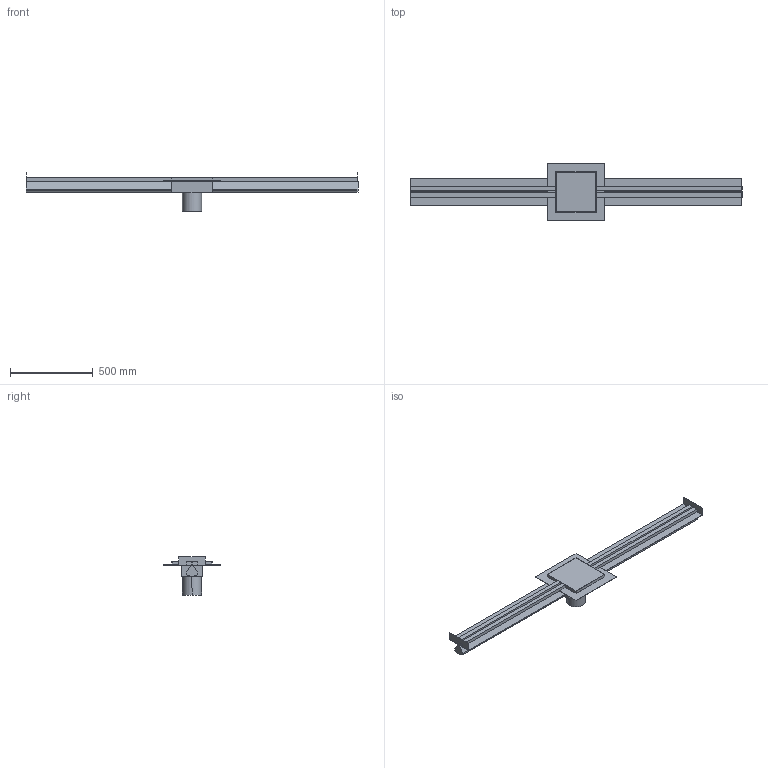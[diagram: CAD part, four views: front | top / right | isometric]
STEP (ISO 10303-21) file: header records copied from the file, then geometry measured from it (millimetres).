
FILE_DESCRIPTION(/* description */ (''),/* implementation_level */ '2;1');
FILE_NAME(/* name */ 'E:\Workspace\resitec\Packs\Kategorie\Entwässerungsrinne\STP\RS772K.65.245Schlitzrinne mit Rand 25mm AuslaufkastenM245mm-2xZargeL+R-2xKRV+H.s.ipt.stp',/* time_stamp */ '2020-10-04T20:57:24+02:00',/* author */ ('ndmes'),/* organization */ (''),/* preprocessor_version */ 'ST-DEVELOPER v18.1',/* originating_system */ 'Autodesk Inventor 2021',/* authorisation */ '');
FILE_SCHEMA (('AUTOMOTIVE_DESIGN { 1 0 10303 214 3 1 1 }'));
Length unit declared in the file: millimetre
Products named in the file (1): RS772K.65.245Schlitzrinne mit Rand 25mm AuslaufkastenM245mm-2xZargeL+
R-2xKRV+H.s
Bounding box: 2000 x 345 x 230 mm (x, y, z)
Volume: 12728815.2 mm3; surface area: 1897639 mm2
Topology: 13 solids, 13 shells, 97 faces, 213 edges, 142 vertices
Faces by surface type: plane 95, cylinder 2
Entity records: 2644 total; most frequent: CARTESIAN_POINT 453, ORIENTED_EDGE 426, DIRECTION 413, EDGE_CURVE 213, LINE 209, VECTOR 209, VERTEX_POINT 142, AXIS2_PLACEMENT_3D 102
